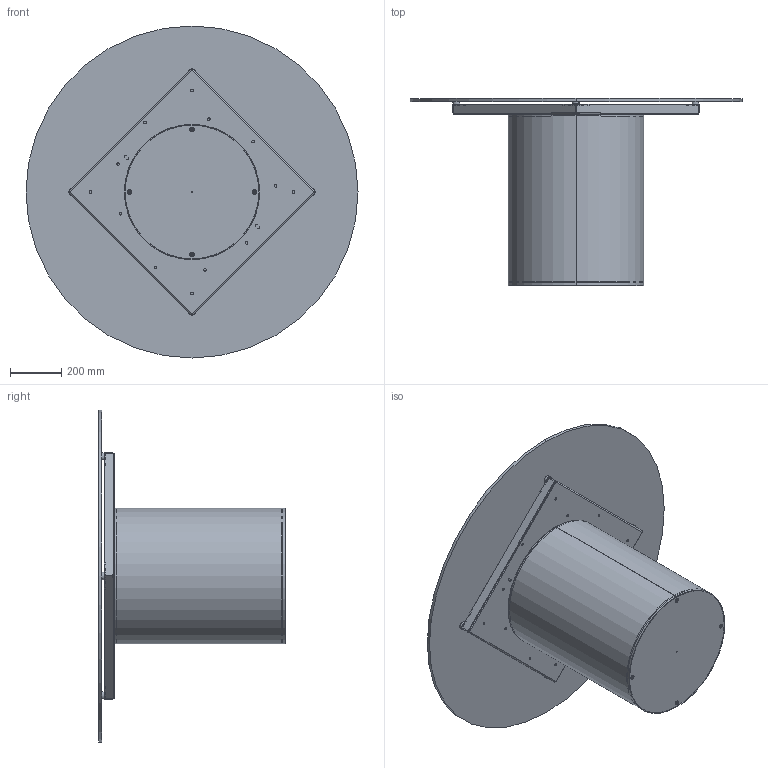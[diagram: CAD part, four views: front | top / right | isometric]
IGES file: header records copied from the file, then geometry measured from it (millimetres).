
Start section: SolidWorks IGES file using analytic representation for surfaces
Global section: file name: Y:\eforma\TECNICO\SOLIDWORKS\E-FORMA\1-TAVOLI\CILINDRO\02 parts\CI05G.IGS; native system: SolidWorks 2022; preprocessor: SolidWorks 2022; author: eforma.tech; date: 240808.085849; units: millimetre
Bounding box: 1300 x 732 x 1300 mm (x, y, z)
Volume: 23249204.8 mm3; surface area: 6847825.9 mm2
Topology: 23 solids, 23 shells, 704 faces, 1782 edges, 1106 vertices
Faces by surface type: revolution 372, plane 332
